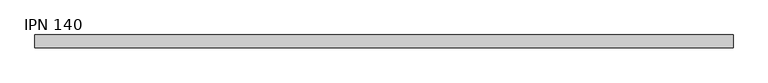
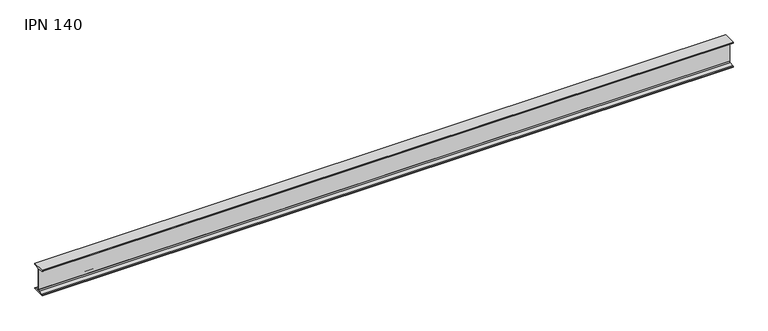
"""IFC4 building model written with IfcOpenShell, lengths in millimetres: beam geometry, IPN - Secciones en I con alas cónicas : IPN 140."""

from ifc_helpers import new_model, si_unit, point, frame, frame_2d, origin, place, context, project, spatial, polyline, circle_curve, trimmed, segment, composite_curve, outline, extrude, source, transform, mapped, element, save


def ipn_140_1e3c4ed5(model_context):
    return source(origin(), model_context, "Body", "SweptSolid", [
        extrude(outline(composite_curve([segment(polyline([(33.0, 70.0), (33.0, 66.6671583)]), True, "CONTINUOUS"), segment(trimmed(circle_curve(frame_2d((29.6, 66.6671583)), 3.4), [point((33.0, 66.6671583))], [point((30.0714027, 63.2999964))], False, "CARTESIAN"), True, "CONTINUOUS"), segment(polyline([(30.0714027, 63.2999964), (7.7597073, 60.176359)]), True, "CONTINUOUS"), segment(trimmed(circle_curve(frame_2d((8.55, 54.5314111)), 5.7), [point((7.7597073, 60.176359))], [point((2.85, 54.5314111))], True, "CARTESIAN"), True, "CONTINUOUS"), segment(polyline([(2.85, 54.5314111), (2.85, -54.5314111)]), True, "CONTINUOUS"), segment(trimmed(circle_curve(frame_2d((8.55, -54.5314111)), 5.7), [point((2.85, -54.5314111))], [point((7.7597073, -60.176359))], True, "CARTESIAN"), True, "CONTINUOUS"), segment(polyline([(7.7597073, -60.176359), (30.0714027, -63.2999964)]), True, "CONTINUOUS"), segment(trimmed(circle_curve(frame_2d((29.6, -66.6671583)), 3.4), [point((30.0714027, -63.2999964))], [point((33.0, -66.6671583))], False, "CARTESIAN"), True, "CONTINUOUS"), segment(polyline([(33.0, -66.6671583), (33.0, -70.0), (-33.0, -70.0), (-33.0, -66.6671583)]), True, "CONTINUOUS"), segment(trimmed(circle_curve(frame_2d((-29.6, -66.6671583)), 3.4), [point((-33.0, -66.6671583))], [point((-30.0714027, -63.2999964))], False, "CARTESIAN"), True, "CONTINUOUS"), segment(polyline([(-30.0714027, -63.2999964), (-7.7597073, -60.176359)]), True, "CONTINUOUS"), segment(trimmed(circle_curve(frame_2d((-8.55, -54.5314111)), 5.7), [point((-7.7597073, -60.176359))], [point((-2.85, -54.5314111))], True, "CARTESIAN"), True, "CONTINUOUS"), segment(polyline([(-2.85, -54.5314111), (-2.85, 54.5314111)]), True, "CONTINUOUS"), segment(trimmed(circle_curve(frame_2d((-8.55, 54.5314111)), 5.7), [point((-2.85, 54.5314111))], [point((-7.7597073, 60.176359))], True, "CARTESIAN"), True, "CONTINUOUS"), segment(polyline([(-7.7597073, 60.176359), (-30.0714027, 63.2999964)]), True, "CONTINUOUS"), segment(trimmed(circle_curve(frame_2d((-29.6, 66.6671583)), 3.4), [point((-30.0714027, 63.2999964))], [point((-33.0, 66.6671583))], False, "CARTESIAN"), True, "CONTINUOUS"), segment(polyline([(-33.0, 66.6671583), (-33.0, 70.0), (33.0, 70.0)]), True, "CONTINUOUS")], self_intersect=False)), frame((-1808.5, 0.0, 0.0), z_axis=(1.0, 0.0, 0.0), x_axis=(0.0, 1.0, 0.0)), (0.0, 0.0, 1.0), 3617.0),
    ])


if __name__ == "__main__":
    model = new_model("IFC4")
    model_context = context("Model", 3, world=origin())
    ifc_project = project(units=[si_unit("LENGTHUNIT", "METRE", prefix="MILLI")], contexts=[model_context])
    site = spatial("IfcSite", under=ifc_project)
    building = spatial("IfcBuilding", under=site)
    placement = place(None, origin())
    ipn_140_shape = ipn_140_1e3c4ed5(model_context)
    element("IfcBeam", 1, ObjectType="IPN - Secciones en I con alas cónicas : IPN 140", at=placement, inside=building, context=model_context, shape_type="MappedRepresentation", body=[
        mapped(ipn_140_shape, transform((0.0, 0.0, 0.0), x_axis=(1.0, 0.0, 0.0), y_axis=(0.0, 1.0, 0.0), z_axis=(0.0, 0.0, 1.0))),
    ])
    save(model, "model.ifc")
